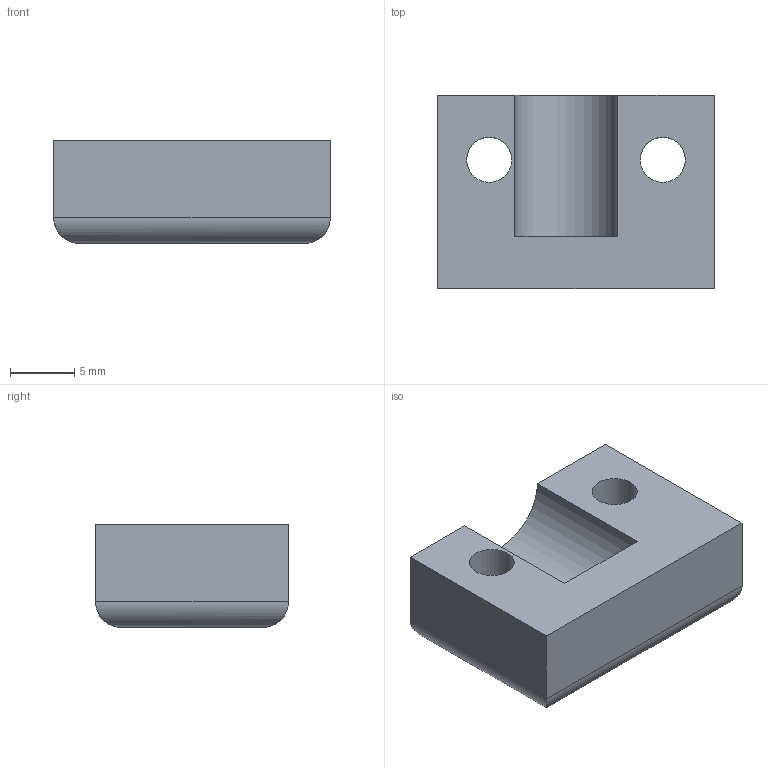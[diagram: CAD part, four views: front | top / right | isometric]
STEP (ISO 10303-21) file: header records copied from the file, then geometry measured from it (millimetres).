
FILE_DESCRIPTION(/* description */ (''),/* implementation_level */ '2;1');
FILE_NAME(/* name */ 'Idler FR Clamp x1 v1.step',/* time_stamp */ '2023-03-23T06:38:22-06:00',/* author */ (''),/* organization */ (''),/* preprocessor_version */ 'ST-DEVELOPER v19.2',/* originating_system */ 'Autodesk Translation Framework v11.17.0.187',/* authorisation */ '');
FILE_SCHEMA (('AUTOMOTIVE_DESIGN { 1 0 10303 214 3 1 1 }'));
Length unit declared in the file: millimetre
Products named in the file (2): Idler FR Clamp x1; FR Idler 2
Assembly tree (1 placements, depth 2):
  Idler FR Clamp x1
    FR Idler 2
Bounding box: 21.5 x 15 x 8 mm (x, y, z)
Volume: 2089.9 mm3; surface area: 1351.8 mm2
Topology: 1 solids, 1 shells, 14 faces, 32 edges, 20 vertices
Faces by surface type: cylinder 7, plane 7
Full cylindrical faces by diameter (mm): 3.5 x2
Entity records: 462 total; most frequent: DIRECTION 76, CARTESIAN_POINT 69, ORIENTED_EDGE 64, EDGE_CURVE 32, AXIS2_PLACEMENT_3D 27, LINE 22, VECTOR 22, VERTEX_POINT 20
